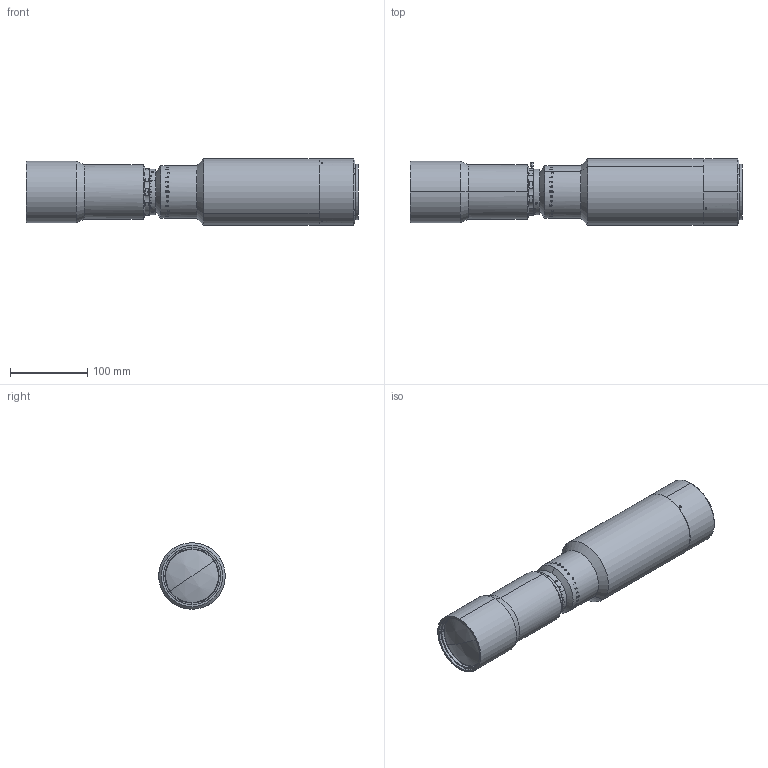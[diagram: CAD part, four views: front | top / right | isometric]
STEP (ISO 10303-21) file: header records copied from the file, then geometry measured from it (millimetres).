
FILE_DESCRIPTION (( 'STEP AP203' ), '1' );
FILE_NAME ('XF-PTL05562-M72-11.48-VI.STEP', '2020-05-09T06:09:55', ( 'puyufan' ), ( '' ), 'SwSTEP 2.0', 'SolidWorks 2014', '' );
FILE_SCHEMA (( 'CONFIG_CONTROL_DESIGN' ));
Length unit declared in the file: millimetre
Products named in the file (1): XF-PTL05562-M72-11.48-VI
Bounding box: 428.77 x 86 x 86 mm (x, y, z)
Volume: 1872815.3 mm3; surface area: 150245.6 mm2
Topology: 5 solids, 13 shells, 975 faces, 2584 edges, 1698 vertices
Faces by surface type: plane 423, bspline 278, cylinder 201, cone 71, sphere 2
Entity records: 65936 total; most frequent: CARTESIAN_POINT 44017, ORIENTED_EDGE 5156, DIRECTION 3551, EDGE_CURVE 2578, VERTEX_POINT 1698, AXIS2_PLACEMENT_3D 1364, B_SPLINE_CURVE_WITH_KNOTS 1089, EDGE_LOOP 1058
